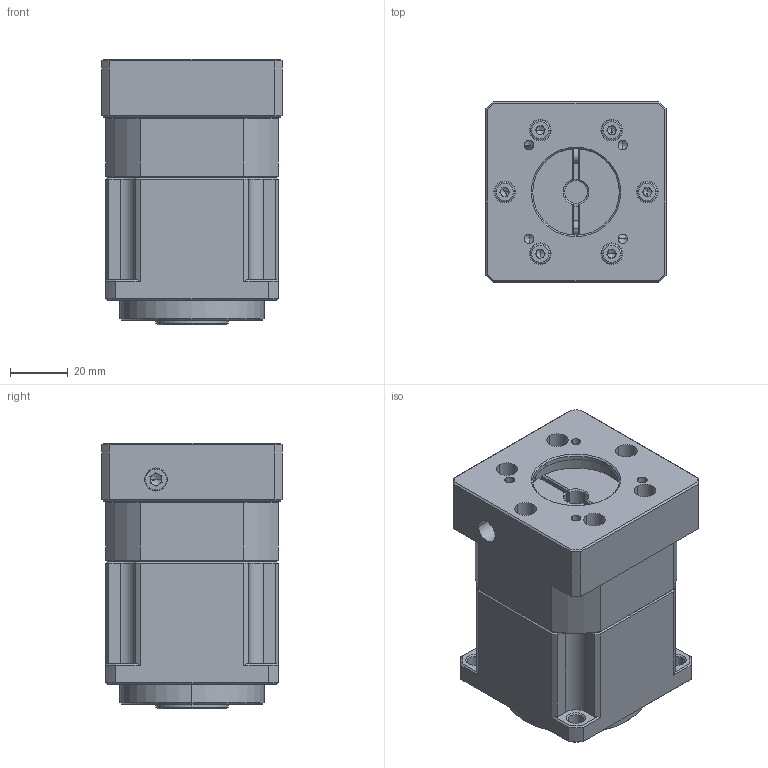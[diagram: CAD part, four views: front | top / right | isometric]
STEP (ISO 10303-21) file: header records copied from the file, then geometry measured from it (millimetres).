
FILE_DESCRIPTION (( 'STEP AP214' ), '1' );
FILE_NAME ('ZPB060-K16-L1-P1-8-30-46-M4.step', '2024-04-24T07:35:32', ( '' ), ( '' ), 'SwSTEP 2.0', 'SolidWorks 2016', '' );
FILE_SCHEMA (( 'AUTOMOTIVE_DESIGN' ));
Length unit declared in the file: millimetre
Products named in the file (1): ZPB060-K16-L1-P1-8-30-46-M4
Bounding box: 62.5 x 62.5 x 92 mm (x, y, z)
Volume: 259595.3 mm3; surface area: 73156.2 mm2
Topology: 16 solids, 25 shells, 1803 faces, 5067 edges, 3272 vertices
Faces by surface type: plane 910, bspline 315, cylinder 267, cone 169, torus 96, sphere 46
Entity records: 91928 total; most frequent: CARTESIAN_POINT 28383, ORIENTED_EDGE 9798, DIRECTION 7804, EDGE_CURVE 4899, VERTEX_POINT 3203, LINE 2844, VECTOR 2844, AXIS2_PLACEMENT_3D 2480
